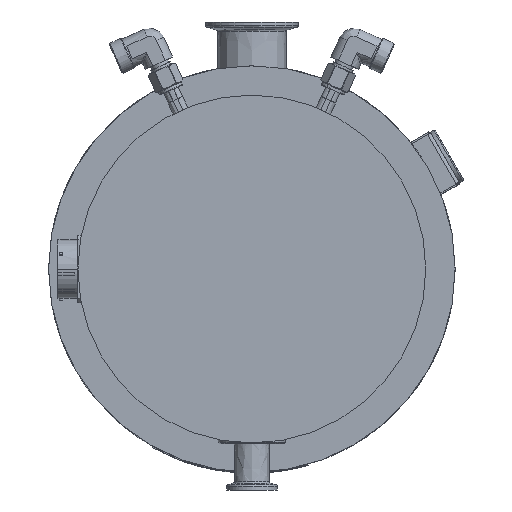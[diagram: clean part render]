
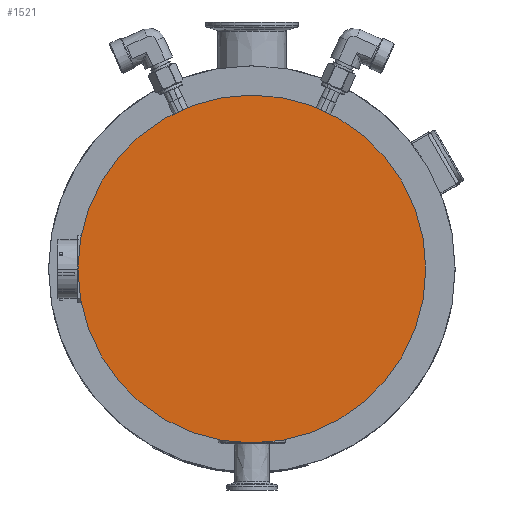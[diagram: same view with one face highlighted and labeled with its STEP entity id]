
A CAD part, front view. The second image highlights one B-rep face of the part: STEP entity #1521.
In plain terms, the highlighted free-form (B-spline) face has degree [1, 1] with [2, 2] control points.
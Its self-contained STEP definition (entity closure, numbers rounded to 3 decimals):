
#302=CARTESIAN_POINT('',(0.,-7.7,0.));
#303=DIRECTION('',(0.,-1.,0.));
#304=DIRECTION('',(0.,0.,1.));
#305=AXIS2_PLACEMENT_3D('',#302,#303,#304);
#315=CARTESIAN_POINT('',(0.,-7.7,0.));
#316=DIRECTION('',(0.,1.,0.));
#317=DIRECTION('',(0.,0.,1.));
#318=AXIS2_PLACEMENT_3D('',#315,#316,#317);
#320=CARTESIAN_POINT('',(0.,-7.7,103.5));
#322=VERTEX_POINT('',#320);
#356=CARTESIAN_POINT('',(0.,-7.7,-103.5));
#358=VERTEX_POINT('',#356);
#1512=CARTESIAN_POINT('',(-107.729,-7.7,107.64));
#1513=CARTESIAN_POINT('',(107.729,-7.7,107.64));
#1514=CARTESIAN_POINT('',(-107.729,-7.7,-107.64));
#1515=CARTESIAN_POINT('',(107.729,-7.7,-107.64));
#1516=B_SPLINE_SURFACE_WITH_KNOTS('',1,1,((#1512,#1513),(#1514,#1515)),
.UNSPECIFIED.,.F.,.F.,.F.,(2,2),(2,2),(-107.64,107.64),(-107.729,
107.729),.UNSPECIFIED.);
#1517=ORIENTED_EDGE('',*,*,#1507,.T.);
#1518=ORIENTED_EDGE('',*,*,#1467,.F.);
#1519=EDGE_LOOP('',(#1517,#1518));
#1520=FACE_OUTER_BOUND('',#1519,.F.);
#1521=ADVANCED_FACE('',(#1520),#1516,.T.);
#306=CIRCLE('',#305,103.5);
#319=CIRCLE('',#318,103.5);
#1467=EDGE_CURVE('',#322,#358,#306,.T.);
#1507=EDGE_CURVE('',#322,#358,#319,.T.);
